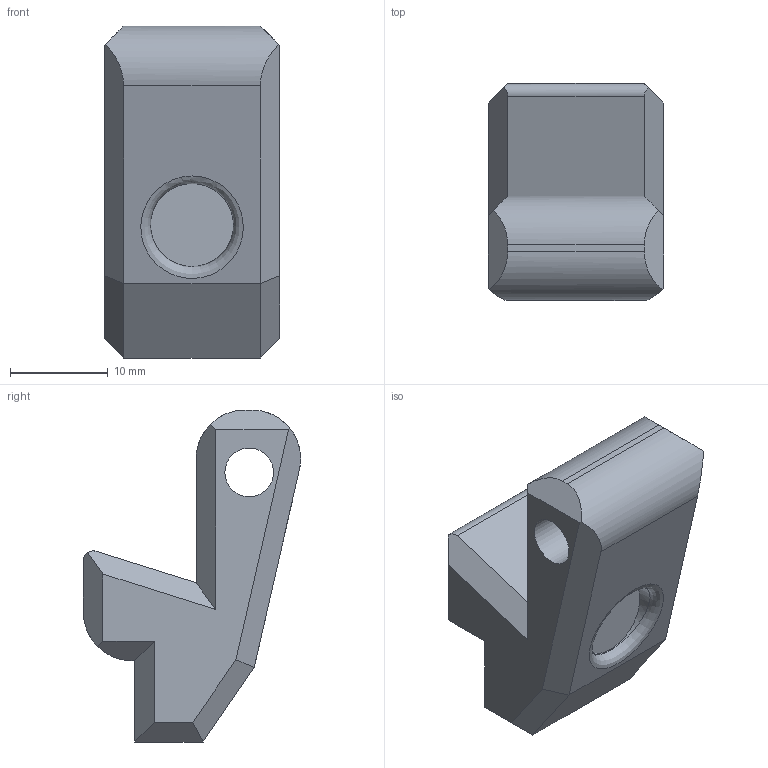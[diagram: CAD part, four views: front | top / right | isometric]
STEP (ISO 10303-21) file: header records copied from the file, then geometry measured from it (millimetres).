
FILE_DESCRIPTION(('HOOPS Exchange Step'),'2;1');
FILE_NAME('/private/var/mobile/Containers/Data/Application/F80535CE-18CF-442F-96C7-3C807C077FF5/tmp/export/temp_export','2026-04-06T20:46:44+19:00',('mobile'),('Shapr3D Limited'),'HOOPS Exchange 2025.9','Shapr3D','Authorized');
FILE_SCHEMA( ('AP242_MANAGED_MODEL_BASED_3D_ENGINEERING_MIM_LF {1 0 10303 442 1 1 4}') );
Length unit declared in the file: millimetre
Products named in the file (4): Fake mag release; Foregrip; DONE; root
Assembly tree (3 placements, depth 4):
  root
    DONE
      Foregrip
        Fake mag release
Bounding box: 18 x 22.27 x 34.03 mm (x, y, z)
Volume: 6485.9 mm3; surface area: 2711.7 mm2
Topology: 1 solids, 1 shells, 37 faces, 93 edges, 59 vertices
Faces by surface type: plane 30, cylinder 6, bspline 1
Full cylindrical faces by diameter (mm): 5 x1, 8.5 x1
Entity records: 1876 total; most frequent: CARTESIAN_POINT 865, DIRECTION 203, ORIENTED_EDGE 186, EDGE_CURVE 93, VECTOR 69, LINE 69, AXIS2_PLACEMENT_3D 67, VERTEX_POINT 59
